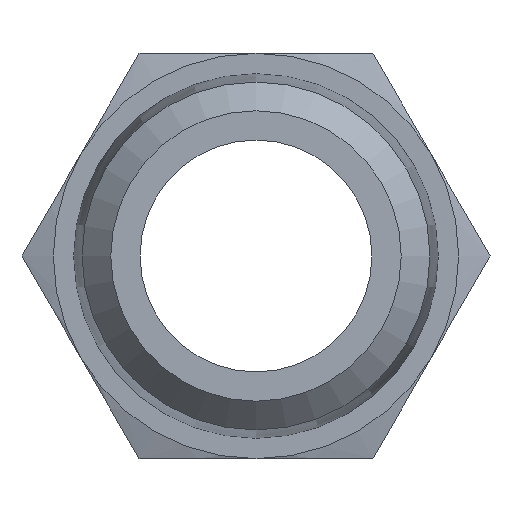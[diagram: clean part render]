
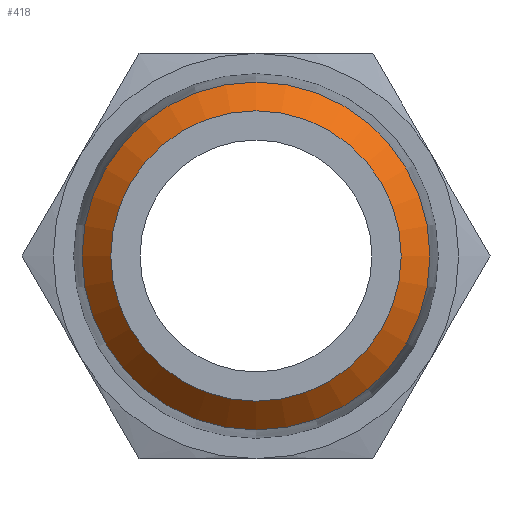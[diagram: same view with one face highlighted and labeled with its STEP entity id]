
A CAD part, left-side view. The second image highlights one B-rep face of the part: STEP entity #418.
In plain terms, the highlighted conical face has half-angle 45 degrees and reference radius 3.976 mm.
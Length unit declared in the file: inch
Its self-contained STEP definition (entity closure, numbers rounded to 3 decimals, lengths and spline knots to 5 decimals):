
#57=CIRCLE('',#473,0.15655);
#59=CIRCLE('',#476,0.18753);
#104=ORIENTED_EDGE('',*,*,#214,.F.);
#105=ORIENTED_EDGE('',*,*,#212,.T.);
#212=EDGE_CURVE('',#259,#259,#57,.T.);
#214=EDGE_CURVE('',#261,#261,#59,.T.);
#259=VERTEX_POINT('',#756);
#261=VERTEX_POINT('',#761);
#310=EDGE_LOOP('',(#104));
#311=EDGE_LOOP('',(#105));
#356=FACE_BOUND('',#310,.T.);
#357=FACE_BOUND('',#311,.T.);
#400=CONICAL_SURFACE('',#475,0.15655,0.785);
#418=ADVANCED_FACE('',(#356,#357),#400,.T.);
#473=AXIS2_PLACEMENT_3D('',#755,#553,#554);
#475=AXIS2_PLACEMENT_3D('',#759,#557,#558);
#476=AXIS2_PLACEMENT_3D('',#760,#559,#560);
#553=DIRECTION('',(1.,0.,0.));
#554=DIRECTION('',(0.,0.,-1.));
#557=DIRECTION('',(1.,0.,0.));
#558=DIRECTION('',(0.,0.,-1.));
#559=DIRECTION('',(1.,0.,0.));
#560=DIRECTION('',(0.,0.,-1.));
#755=CARTESIAN_POINT('',(0.,0.,0.));
#756=CARTESIAN_POINT('',(0.,0.,-0.15655));
#759=CARTESIAN_POINT('',(0.,0.,0.));
#760=CARTESIAN_POINT('',(0.03098,0.,0.));
#761=CARTESIAN_POINT('',(0.03098,0.,-0.18753));
